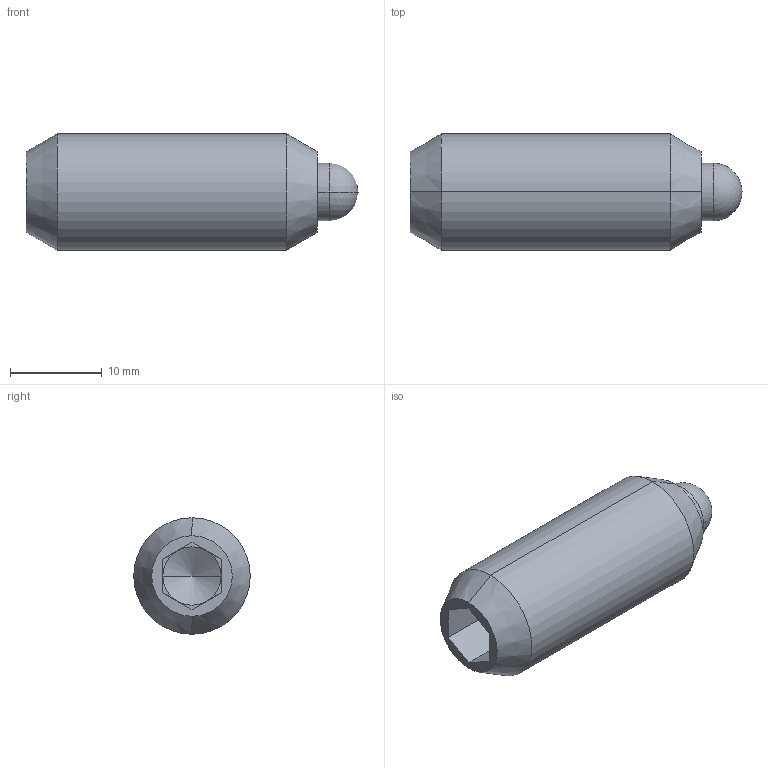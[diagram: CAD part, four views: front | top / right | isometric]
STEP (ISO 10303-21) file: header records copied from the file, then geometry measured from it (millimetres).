
FILE_DESCRIPTION (( 'STEP AP203' ), '1' );
FILE_NAME ('Default.step', '2009-10-12T13:50:06', ( 'Wixroyd' ), ( 'Wixroyd' ), 'SwSTEP 2.0', 'SolidWorks 2009', '' );
FILE_SCHEMA (( 'CONFIG_CONTROL_DESIGN' ));
Length unit declared in the file: inch
Products named in the file (3): Default; Part1; Part2
Assembly tree (2 placements, depth 2):
  Default
    Part2
    Part1
Bounding box: 36.21 x 12.7 x 12.7 mm (x, y, z)
Volume: 2753.1 mm3; surface area: 2505.9 mm2
Topology: 2 solids, 2 shells, 43 faces, 92 edges, 52 vertices
Faces by surface type: plane 17, cylinder 12, cone 12, sphere 2
Entity records: 1413 total; most frequent: DIRECTION 220, CARTESIAN_POINT 184, ORIENTED_EDGE 172, EDGE_CURVE 86, AXIS2_PLACEMENT_3D 86, VERTEX_POINT 50, VECTOR 48, LINE 48
